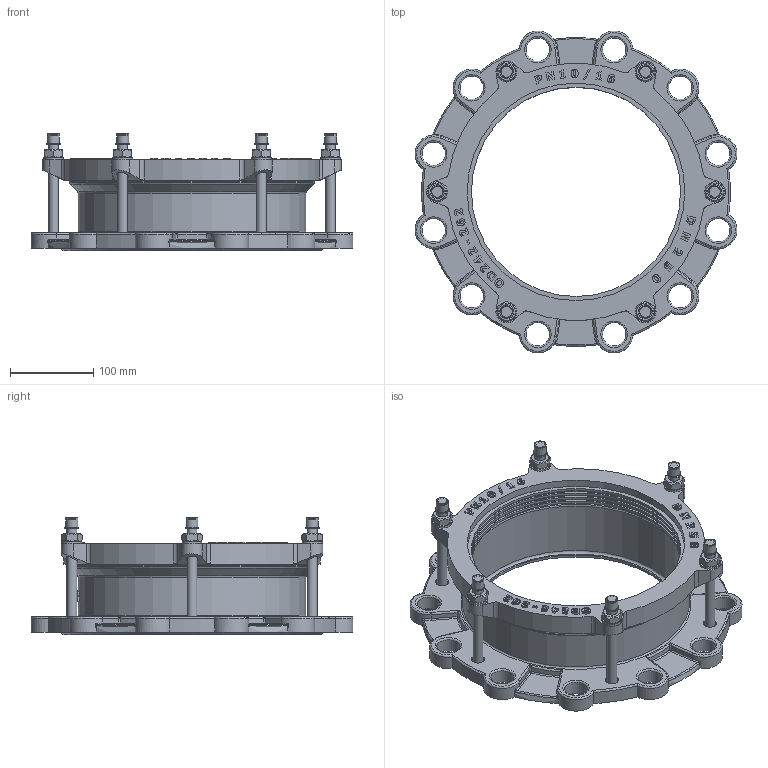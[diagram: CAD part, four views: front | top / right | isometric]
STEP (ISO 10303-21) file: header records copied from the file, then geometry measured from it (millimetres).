
FILE_DESCRIPTION(('STEP AP203'), '1');
FILE_NAME('Ôëàíöåâûé àäàïòåð', '', ('UNSPECIFIED'), ('UNSPECIFIED'), 'C3D Converter', 'C3D Toolkit', '');
FILE_SCHEMA(('CONFIG_CONTROL_DESIGN'));
Length unit declared in the file: millimetre
Assembly tree (27 placements, depth 2):
  (unnamed)
    (unnamed)
    (unnamed)  x6
    (unnamed)  x6
    (unnamed)  x6
    (unnamed)  x6
    (unnamed)
    (unnamed)
Bounding box: 387.9 x 387.9 x 141.2 mm (x, y, z)
Volume: 2075336.1 mm3; surface area: 546983 mm2
Topology: 27 solids, 27 shells, 1245 faces, 3111 edges, 1903 vertices
Faces by surface type: plane 402, extrusion 322, cylinder 290, torus 101, bspline 48, cone 46, sphere 36
Full cylindrical faces by diameter (mm): 12 x18, 13 x6, 13.478 x1, 14 x12, 14.4 x6, 16.8 x6, 24 x6, 28 x12, 252 x5, 257 x3, 262 x2, 268 x1, 274 x2, 295 x1, 298 x2
Entity records: 46221 total; most frequent: CARTESIAN_POINT 17860, ORIENTED_EDGE 5068, DIRECTION 4080, EDGE_CURVE 2534, VERTEX_POINT 1638, VECTOR 1404, AXIS2_PLACEMENT_3D 1338, EDGE_LOOP 1249
